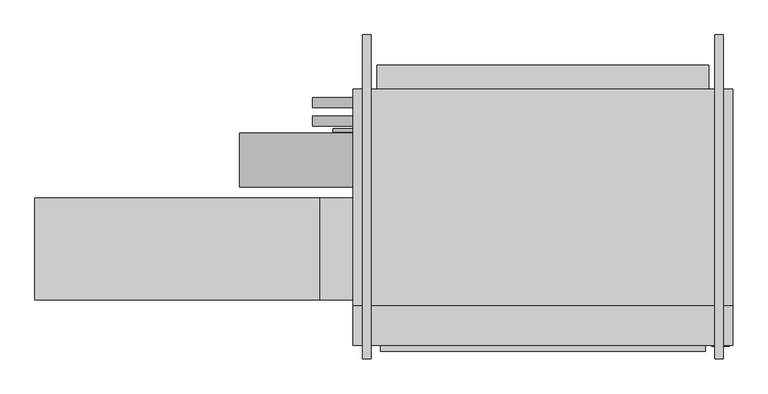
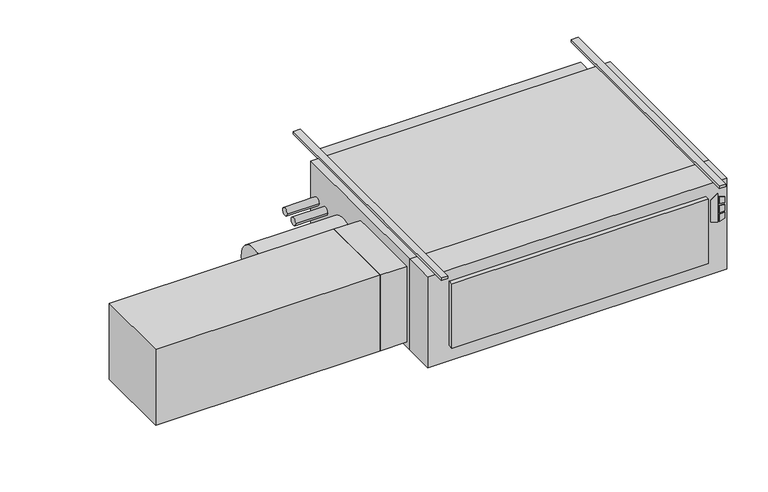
"""IFC4 building model written with IfcOpenShell, lengths in millimetres: proxy geometry."""

from ifc_helpers import new_model, si_unit, point, frame, frame_2d, origin, origin_with_axes, place, context, project, spatial, polyline, circle_curve, trimmed, segment, composite_curve, outline, extrude, source, transform, mapped, element, save


def mechanical_equipment_5dbc868a(model_context):
    return source(origin(), model_context, "Body", "SweptSolid", [
        extrude(outline(polyline([(-193.2519297, 785.8868862), (-203.2, 818.0602728), (-61.0290756, 818.0602728), (-84.0510817, 785.8868862), (-193.2519297, 785.8868862)])), frame((0.0, -797.052, 0.0), z_axis=(0.0, 1.0, 0.0), x_axis=(0.0, 0.0, 1.0)), (0.0, 0.0, 1.0), 3.175),
        extrude(outline(polyline([(-114.2526443, 824.8186058), (-117.4550368, 850.9), (-88.2261958, 850.9), (-80.1617807, 824.8186058), (-114.2526443, 824.8186058)])), frame((0.0, -797.052, 0.0), z_axis=(0.0, 1.0, 0.0), x_axis=(0.0, 0.0, 1.0)), (0.0, 0.0, 1.0), 3.175),
        extrude(outline(polyline([(-166.1161712, 850.9), (-169.7816721, 824.8186058), (-203.2, 824.8186058), (-194.5657628, 850.9), (-166.1161712, 850.9)])), frame((0.0, -797.052, 0.0), z_axis=(0.0, 1.0, 0.0), x_axis=(0.0, 0.0, 1.0)), (0.0, 0.0, 1.0), 3.175),
        extrude(outline(polyline([(-126.8010097, 850.9), (-124.5191834, 824.8186058), (-160.4567319, 824.8186058), (-157.7154669, 850.9), (-126.8010097, 850.9)])), frame((0.0, -797.052, 0.0), z_axis=(0.0, 1.0, 0.0), x_axis=(0.0, 0.0, 1.0)), (0.0, 0.0, 1.0), 3.175),
        extrude(outline(polyline([(863.6, -793.877), (-558.8, -793.877), (-558.8, -644.525), (863.6, -644.525), (863.6, -793.877)])), frame((0.0, 0.0, -457.2), z_axis=(0.0, 0.0, 1.0), x_axis=(1.0, 0.0, 0.0)), (0.0, 0.0, 1.0), 457.2),
        extrude(outline(polyline([(762.0, -816.229), (-457.2, -816.229), (-457.2, -793.877), (762.0, -793.877), (762.0, -816.229)])), frame((0.0, 0.0, -381.0), z_axis=(0.0, 0.0, 1.0), x_axis=(1.0, 0.0, 0.0)), (0.0, 0.0, 1.0), 323.85),
        extrude(outline(polyline([(-1752.6, -622.3), (-1752.6, -241.3), (-685.8, -241.3), (-685.8, -622.3), (-1752.6, -622.3)])), frame((0.0, 0.0, -431.8), z_axis=(0.0, 0.0, 1.0), x_axis=(1.0, 0.0, 0.0)), (0.0, 0.0, 1.0), 381.0),
        extrude(outline(polyline([(-558.8, -241.3), (-558.8, -622.3), (-685.8, -622.3), (-685.8, -241.3), (-558.8, -241.3)])), frame((0.0, 0.0, -431.8), z_axis=(0.0, 0.0, 1.0), x_axis=(1.0, 0.0, 0.0)), (0.0, 0.0, 1.0), 381.0),
        extrude(outline(composite_curve([segment(trimmed(circle_curve(frame_2d((-98.4896516, -228.6360165)), 101.6), [point((-200.0896516, -228.6360165))], [point((3.1103484, -228.6360165))], False, "CARTESIAN"), True, "CONTINUOUS"), segment(trimmed(circle_curve(frame_2d((-98.4896516, -228.6360165)), 101.6), [point((3.1103484, -228.6360165))], [point((-200.0896516, -228.6360165))], False, "CARTESIAN"), True, "CONTINUOUS")], self_intersect=False)), frame((-984.25, 0.0, 0.0), z_axis=(1.0, 0.0, 0.0), x_axis=(0.0, 1.0, 0.0)), (0.0, 0.0, 1.0), 425.45),
        extrude(outline(composite_curve([segment(trimmed(circle_curve(frame_2d((47.625, -177.8)), 19.05), [point((28.575, -177.8))], [point((66.675, -177.8))], False, "CARTESIAN"), True, "CONTINUOUS"), segment(trimmed(circle_curve(frame_2d((47.625, -177.8)), 19.05), [point((66.675, -177.8))], [point((28.575, -177.8))], False, "CARTESIAN"), True, "CONTINUOUS")], self_intersect=False)), frame((-711.2, 0.0, 0.0), z_axis=(1.0, 0.0, 0.0), x_axis=(0.0, 1.0, 0.0)), (0.0, 0.0, 1.0), 152.4),
        extrude(outline(composite_curve([segment(trimmed(circle_curve(frame_2d((117.475, -171.45)), 19.05), [point((98.425, -171.45))], [point((136.525, -171.45))], False, "CARTESIAN"), True, "CONTINUOUS"), segment(trimmed(circle_curve(frame_2d((117.475, -171.45)), 19.05), [point((136.525, -171.45))], [point((98.425, -171.45))], False, "CARTESIAN"), True, "CONTINUOUS")], self_intersect=False)), frame((-711.2, 0.0, 0.0), z_axis=(1.0, 0.0, 0.0), x_axis=(0.0, 1.0, 0.0)), (0.0, 0.0, 1.0), 152.4),
        extrude(outline(composite_curve([segment(trimmed(circle_curve(frame_2d((12.7, -409.575)), 6.35), [point((6.35, -409.575))], [point((19.05, -409.575))], False, "CARTESIAN"), True, "CONTINUOUS"), segment(trimmed(circle_curve(frame_2d((12.7, -409.575)), 6.35), [point((19.05, -409.575))], [point((6.35, -409.575))], False, "CARTESIAN"), True, "CONTINUOUS")], self_intersect=False)), frame((-635.0, 0.0, 0.0), z_axis=(1.0, 0.0, 0.0), x_axis=(0.0, 1.0, 0.0)), (0.0, 0.0, 1.0), 76.2),
        extrude(outline(polyline([(863.6, 168.275), (863.6, -644.525), (-558.8, -644.525), (-558.8, 168.275), (863.6, 168.275)])), frame((0.0, 0.0, -457.2), z_axis=(0.0, 0.0, 1.0), x_axis=(1.0, 0.0, 0.0)), (0.0, 0.0, 1.0), 457.2),
        extrude(outline(polyline([(-469.9, 257.175), (774.7, 257.175), (774.7, 168.275), (-469.9, 168.275), (-469.9, 257.175)])), frame((0.0, 0.0, -381.0), z_axis=(0.0, 0.0, 1.0), x_axis=(1.0, 0.0, 0.0)), (0.0, 0.0, 1.0), 355.6),
        extrude(outline(polyline([(-492.125, 371.475), (-492.125, -844.677), (-523.875, -844.677), (-523.875, 371.475), (-492.125, 371.475)])), origin_with_axes(), (0.0, 0.0, 1.0), 12.7),
        extrude(outline(polyline([(828.675, 371.475), (828.675, -844.677), (796.925, -844.677), (796.925, 371.475), (828.675, 371.475)])), origin_with_axes(), (0.0, 0.0, 1.0), 12.7),
    ])


if __name__ == "__main__":
    model = new_model("IFC4")
    model_context = context("Model", 3, world=origin())
    ifc_project = project(units=[si_unit("LENGTHUNIT", "METRE", prefix="MILLI")], contexts=[model_context])
    site = spatial("IfcSite", under=ifc_project)
    building = spatial("IfcBuilding", under=site)
    placement = place(None, origin())
    mechanical_equipment_shape = mechanical_equipment_5dbc868a(model_context)
    element("IfcBuildingElementProxy", 1, Name="High_Capacity_Horizontal_Cabinet_Fan_Coil_Unit_-_HTY_-_IEC_-_2 Pipe, Elec Heat_WO-Attenuator_LH Side_2022 : Size 20 - 277v/60Hz/1Ph - 8/0 Coil 10.0kW - 8\" AirIn", ObjectType="High_Capacity_Horizontal_Cabinet_Fan_Coil_Unit_-_HTY_-_IEC_-_2 Pipe, Elec Heat_WO-Attenuator_LH Side_2022 : Size 20 - 277v/60Hz/1Ph - 8/0 Coil 10.0kW - 8\" AirIn", at=placement, inside=building, context=model_context, shape_type="MappedRepresentation", body=[
        mapped(mechanical_equipment_shape, transform((0.0, 0.0, 0.0), x_axis=(1.0, 0.0, 0.0), y_axis=(0.0, 1.0, 0.0), z_axis=(0.0, 0.0, 1.0))),
    ])
    save(model, "model.ifc")
